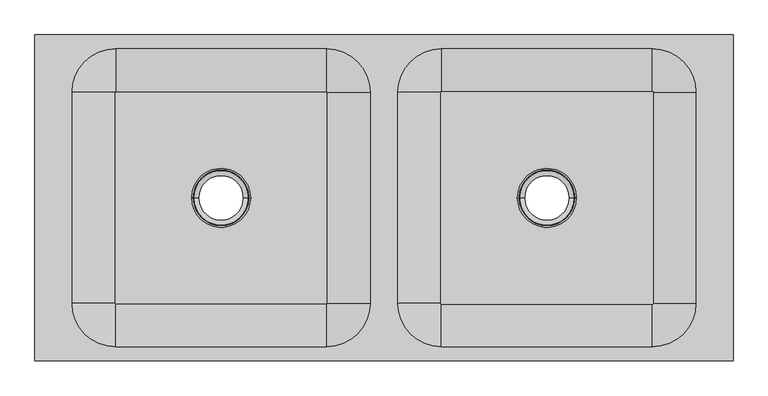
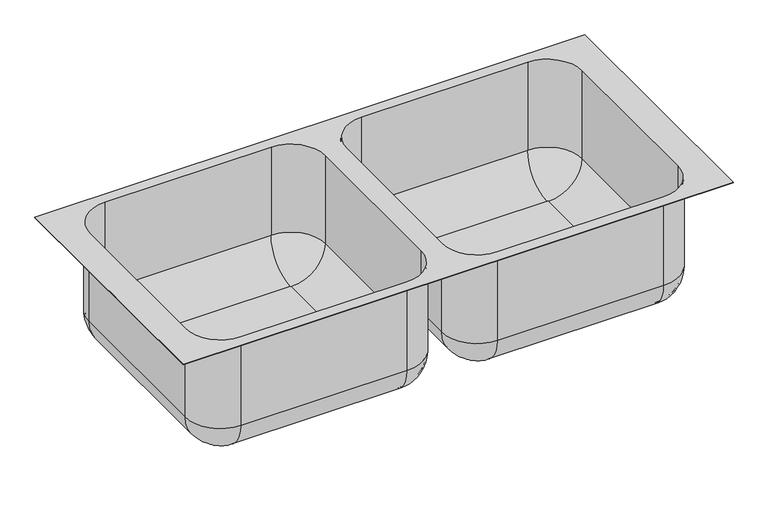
"""IFC4 building model written with IfcOpenShell, lengths in millimetres: flow terminal geometry, Sink_Double _Compartment_Floor_Mount-Elkay-RNSF82482_LR2 : RNSF82482 (Rigidbilt® Stainless Steel Floor Mount Double Compartment Scullery Sink )."""

from ifc_helpers import new_model, si_unit, point, frame, origin, place, context, project, spatial, polyline, circle_curve, ellipse_curve, trimmed, source, transform, mapped, element, save
from ifc_brep_helpers import plane_surface, cylinder_surface, revolved_surface, advanced_brep


def flow_terminal_fb18c262(model_context):
    return source(origin(), model_context, "Body", "AdvancedBrep", [
        advanced_brep(
        [(-638.175, -222.25, 866.775), (-549.275, -311.15, 866.775), (-549.275, -311.15, 865.505), (-549.275, -311.15, 625.6040089), (-638.175, -222.25, 625.6040089), (-638.175, -222.25, 865.505), (-638.175, 209.55, 625.6040089), (-638.175, 209.55, 865.505), (-638.175, 209.55, 866.775), (-549.275, 298.45, 866.775), (-549.275, 298.45, 625.6040089), (-549.275, 298.45, 865.505), (-117.475, 298.45, 625.6040089), (-117.475, 298.45, 865.505), (-117.475, 298.45, 866.775), (-28.575, 209.55, 866.775), (-28.575, 209.55, 625.6040089), (-28.575, 209.55, 865.505), (-28.575, -222.25, 625.6040089), (-28.575, -222.25, 865.505), (-28.575, -222.25, 866.775), (-117.475, -311.15, 866.775), (-117.475, -311.15, 625.6040089), (-117.475, -311.15, 865.505), (714.375, 327.025, 866.775), (-714.375, 327.025, 866.775), (-714.375, -339.725, 866.775), (714.375, -339.725, 866.775), (117.475, -311.15, 866.775), (28.575, -222.25, 866.775), (28.575, 209.55, 866.775), (117.475, 298.45, 866.775), (549.275, 298.45, 866.775), (638.175, 209.55, 866.775), (638.175, -222.25, 866.775), (549.275, -311.15, 866.775), (-25.4, 209.55, 625.6080984), (-117.475, 301.625, 625.6080984), (-117.475, 301.625, 865.505), (-25.4, 209.55, 865.505), (-115.8875, 209.55, 535.1205984), (-117.475, 211.1375, 535.1205984), (-117.475, 211.1375, 538.2915089), (-115.8875, 209.55, 538.2915089), (-25.4, -222.25, 625.6080984), (-25.4, -222.25, 865.505), (-115.8875, -222.25, 535.1205984), (-115.8875, -222.25, 538.2915089), (-117.475, -314.325, 625.6080984), (-117.475, -314.325, 865.505), (-117.475, -223.8375, 535.1205984), (-117.475, -223.8375, 538.2915089), (-549.275, -314.325, 625.6080984), (-549.275, -314.325, 865.505), (-549.275, -223.8375, 535.1205984), (-549.275, -223.8375, 538.2915089), (-641.35, -222.25, 625.6080984), (-641.35, -222.25, 865.505), (-550.8625, -222.25, 535.1205984), (-550.8625, -222.25, 538.2915089), (-641.35, 209.55, 625.6080984), (-641.35, 209.55, 865.505), (-550.8625, 209.55, 535.1205984), (-550.8625, 209.55, 538.2915089), (-549.275, 301.625, 625.6080984), (-549.275, 301.625, 865.505), (-549.275, 211.1375, 535.1205984), (-549.275, 211.1375, 538.2915089), (-393.7, -6.35, 538.2915089), (-273.05, -6.35, 538.2915089), (550.8625, 209.55, 538.2915089), (549.275, 211.1375, 538.2915089), (117.475, 211.1375, 538.2915089), (115.8875, 209.55, 538.2915089), (115.8875, -222.25, 538.2915089), (117.475, -223.8375, 538.2915089), (549.275, -223.8375, 538.2915089), (550.8625, -222.25, 538.2915089), (273.05, -6.35, 538.2915089), (393.7, -6.35, 538.2915089), (-393.7, -6.35, 535.1205984), (-273.05, -6.35, 535.1205984), (549.275, 211.1375, 535.1205984), (550.8625, 209.55, 535.1205984), (550.8625, -222.25, 535.1205984), (549.275, -223.8375, 535.1205984), (117.475, -223.8375, 535.1205984), (115.8875, -222.25, 535.1205984), (115.8875, 209.55, 535.1205984), (117.475, 211.1375, 535.1205984), (273.05, -6.35, 535.1205984), (393.7, -6.35, 535.1205984), (117.475, -311.15, 865.505), (117.475, -311.15, 625.6040089), (28.575, -222.25, 625.6040089), (28.575, -222.25, 865.505), (28.575, 209.55, 625.6040089), (28.575, 209.55, 865.505), (117.475, 298.45, 625.6040089), (117.475, 298.45, 865.505), (549.275, 298.45, 625.6040089), (549.275, 298.45, 865.505), (638.175, 209.55, 625.6040089), (638.175, 209.55, 865.505), (638.175, -222.25, 625.6040089), (638.175, -222.25, 865.505), (549.275, -311.15, 625.6040089), (549.275, -311.15, 865.505), (641.35, 209.55, 625.6080984), (549.275, 301.625, 625.6080984), (549.275, 301.625, 865.505), (641.35, 209.55, 865.505), (641.35, -222.25, 625.6080984), (641.35, -222.25, 865.505), (549.275, -314.325, 625.6080984), (549.275, -314.325, 865.505), (117.475, -314.325, 625.6080984), (117.475, -314.325, 865.505), (25.4, -222.25, 625.6080984), (25.4, -222.25, 865.505), (25.4, 209.55, 625.6080984), (25.4, 209.55, 865.505), (117.475, 301.625, 625.6080984), (117.475, 301.625, 865.505), (714.375, 327.025, 865.505), (714.375, -339.725, 865.505), (-714.375, -339.725, 865.505), (-714.375, 327.025, 865.505)],
        [
            (0, 1, circle_curve(frame((-549.275, -222.25, 866.775), z_axis=(0.0, 0.0, 1.0), x_axis=(0.0, -1.0, 0.0)), 88.9)),
            (1, 2),
            (2, 3),
            (3, 4, circle_curve(frame((-549.275, -222.25, 625.6040089), z_axis=(0.0, 0.0, -1.0), x_axis=(0.0, -1.0, 0.0)), 88.9)),
            (4, 5),
            (5, 0),
            (4, 6),
            (6, 7),
            (7, 8),
            (8, 0),
            (9, 8, circle_curve(frame((-549.275, 209.55, 866.775), z_axis=(0.0, 0.0, 1.0), x_axis=(-1.0, 0.0, 0.0)), 88.9)),
            (6, 10, circle_curve(frame((-549.275, 209.55, 625.6040089), z_axis=(0.0, 0.0, -1.0), x_axis=(-1.0, 0.0, 0.0)), 88.9)),
            (10, 11),
            (11, 9),
            (10, 12),
            (12, 13),
            (13, 14),
            (14, 9),
            (15, 14, circle_curve(frame((-117.475, 209.55, 866.775), z_axis=(0.0, 0.0, 1.0), x_axis=(0.0, 1.0, 0.0)), 88.9)),
            (12, 16, circle_curve(frame((-117.475, 209.55, 625.6040089), z_axis=(0.0, 0.0, -1.0), x_axis=(0.0, 1.0, 0.0)), 88.9)),
            (16, 17),
            (17, 15),
            (16, 18),
            (18, 19),
            (19, 20),
            (20, 15),
            (21, 20, circle_curve(frame((-117.475, -222.25, 866.775), z_axis=(0.0, 0.0, 1.0), x_axis=(1.0, 0.0, 0.0)), 88.9)),
            (18, 22, circle_curve(frame((-117.475, -222.25, 625.6040089), z_axis=(0.0, 0.0, -1.0), x_axis=(1.0, 0.0, 0.0)), 88.9)),
            (22, 23),
            (23, 21),
            (22, 3),
            (1, 21),
            (24, 25),
            (25, 26),
            (26, 27),
            (27, 24),
            (28, 29, circle_curve(frame((117.475, -222.25, 866.775), z_axis=(0.0, 0.0, -1.0), x_axis=(0.0, -1.0, 0.0)), 88.9)),
            (29, 30),
            (30, 31, circle_curve(frame((117.475, 209.55, 866.775), z_axis=(0.0, 0.0, -1.0), x_axis=(-1.0, 0.0, 0.0)), 88.9)),
            (31, 32),
            (32, 33, circle_curve(frame((549.275, 209.55, 866.775), z_axis=(0.0, 0.0, -1.0), x_axis=(0.0, 1.0, 0.0)), 88.9)),
            (33, 34),
            (34, 35, circle_curve(frame((549.275, -222.25, 866.775), z_axis=(0.0, 0.0, -1.0), x_axis=(1.0, 0.0, 0.0)), 88.9)),
            (35, 28),
            (36, 37, circle_curve(frame((-117.475, 209.55, 625.6080984), z_axis=(0.0, 0.0, 1.0), x_axis=(0.0, 1.0, 0.0)), 92.075)),
            (37, 38),
            (38, 39, circle_curve(frame((-117.475, 209.55, 865.505), z_axis=(0.0, 0.0, -1.0), x_axis=(0.0, 1.0, 0.0)), 92.075)),
            (39, 36),
            (36, 40, circle_curve(frame((-115.8875, 209.55, 625.6080984), z_axis=(0.0, 1.0, 0.0), x_axis=(1.0, 0.0, 0.0)), 90.4875)),
            (40, 41, circle_curve(frame((-117.475, 209.55, 535.1205984), z_axis=(0.0, 0.0, 1.0), x_axis=(0.0, 1.0, 0.0)), 1.5875)),
            (41, 37, circle_curve(frame((-117.475, 211.1375, 625.6080984), z_axis=(1.0, 0.0, 0.0), x_axis=(0.0, 1.0, 0.0)), 90.4875)),
            (12, 42, circle_curve(frame((-117.475, 211.1375, 625.6040089), z_axis=(-1.0, 0.0, 0.0), x_axis=(0.0, 1.0, 0.0)), 87.3125)),
            (42, 43, circle_curve(frame((-117.475, 209.55, 538.2915089), z_axis=(0.0, 0.0, -1.0), x_axis=(0.0, 1.0, 0.0)), 1.5875)),
            (43, 16, circle_curve(frame((-115.8875, 209.55, 625.6040089), z_axis=(0.0, -1.0, 0.0), x_axis=(1.0, 0.0, 0.0)), 87.3125)),
            (44, 36),
            (39, 45),
            (45, 44),
            (44, 46, circle_curve(frame((-115.8875, -222.25, 625.6080984), z_axis=(0.0, 1.0, 0.0), x_axis=(1.0, 0.0, 0.0)), 90.4875)),
            (46, 40),
            (43, 47),
            (47, 18, circle_curve(frame((-115.8875, -222.25, 625.6040089), z_axis=(0.0, -1.0, 0.0), x_axis=(1.0, 0.0, 0.0)), 87.3125)),
            (48, 44, circle_curve(frame((-117.475, -222.25, 625.6080984), z_axis=(0.0, 0.0, 1.0), x_axis=(1.0, 0.0, 0.0)), 92.075)),
            (45, 49, circle_curve(frame((-117.475, -222.25, 865.505), z_axis=(0.0, 0.0, -1.0), x_axis=(1.0, 0.0, 0.0)), 92.075)),
            (49, 48),
            (48, 50, circle_curve(frame((-117.475, -223.8375, 625.6080984), z_axis=(1.0, 0.0, 0.0), x_axis=(0.0, -1.0, 0.0)), 90.4875)),
            (50, 46, circle_curve(frame((-117.475, -222.25, 535.1205984), z_axis=(0.0, 0.0, 1.0), x_axis=(1.0, 0.0, 0.0)), 1.5875)),
            (47, 51, circle_curve(frame((-117.475, -222.25, 538.2915089), z_axis=(0.0, 0.0, -1.0), x_axis=(1.0, 0.0, 0.0)), 1.5875)),
            (51, 22, circle_curve(frame((-117.475, -223.8375, 625.6040089), z_axis=(-1.0, 0.0, 0.0), x_axis=(0.0, -1.0, 0.0)), 87.3125)),
            (52, 48),
            (49, 53),
            (53, 52),
            (52, 54, circle_curve(frame((-549.275, -223.8375, 625.6080984), z_axis=(1.0, 0.0, 0.0), x_axis=(0.0, -1.0, 0.0)), 90.4875)),
            (54, 50),
            (51, 55),
            (55, 3, circle_curve(frame((-549.275, -223.8375, 625.6040089), z_axis=(-1.0, 0.0, 0.0), x_axis=(0.0, -1.0, 0.0)), 87.3125)),
            (56, 52, circle_curve(frame((-549.275, -222.25, 625.6080984), z_axis=(0.0, 0.0, 1.0), x_axis=(0.0, -1.0, 0.0)), 92.075)),
            (53, 57, circle_curve(frame((-549.275, -222.25, 865.505), z_axis=(0.0, 0.0, -1.0), x_axis=(0.0, -1.0, 0.0)), 92.075)),
            (57, 56),
            (56, 58, circle_curve(frame((-550.8625, -222.25, 625.6080984), z_axis=(0.0, -1.0, 0.0), x_axis=(-1.0, 0.0, 0.0)), 90.4875)),
            (58, 54, circle_curve(frame((-549.275, -222.25, 535.1205984), z_axis=(0.0, 0.0, 1.0), x_axis=(0.0, -1.0, 0.0)), 1.5875)),
            (55, 59, circle_curve(frame((-549.275, -222.25, 538.2915089), z_axis=(0.0, 0.0, -1.0), x_axis=(0.0, -1.0, 0.0)), 1.5875)),
            (59, 4, circle_curve(frame((-550.8625, -222.25, 625.6040089), z_axis=(0.0, 1.0, 0.0), x_axis=(-1.0, 0.0, 0.0)), 87.3125)),
            (60, 56),
            (57, 61),
            (61, 60),
            (60, 62, circle_curve(frame((-550.8625, 209.55, 625.6080984), z_axis=(0.0, -1.0, 0.0), x_axis=(-1.0, 0.0, 0.0)), 90.4875)),
            (62, 58),
            (59, 63),
            (63, 6, circle_curve(frame((-550.8625, 209.55, 625.6040089), z_axis=(0.0, 1.0, 0.0), x_axis=(-1.0, 0.0, 0.0)), 87.3125)),
            (64, 60, circle_curve(frame((-549.275, 209.55, 625.6080984), z_axis=(0.0, 0.0, 1.0), x_axis=(-1.0, 0.0, 0.0)), 92.075)),
            (61, 65, circle_curve(frame((-549.275, 209.55, 865.505), z_axis=(0.0, 0.0, -1.0), x_axis=(-1.0, 0.0, 0.0)), 92.075)),
            (65, 64),
            (64, 66, circle_curve(frame((-549.275, 211.1375, 625.6080984), z_axis=(-1.0, 0.0, 0.0), x_axis=(0.0, 1.0, 0.0)), 90.4875)),
            (66, 62, circle_curve(frame((-549.275, 209.55, 535.1205984), z_axis=(0.0, 0.0, 1.0), x_axis=(-1.0, 0.0, 0.0)), 1.5875)),
            (63, 67, circle_curve(frame((-549.275, 209.55, 538.2915089), z_axis=(0.0, 0.0, -1.0), x_axis=(-1.0, 0.0, 0.0)), 1.5875)),
            (67, 10, circle_curve(frame((-549.275, 211.1375, 625.6040089), z_axis=(1.0, 0.0, 0.0), x_axis=(0.0, 1.0, 0.0)), 87.3125)),
            (37, 64),
            (65, 38),
            (41, 66),
            (67, 42),
            (68, 69, circle_curve(frame((-333.375, -6.35, 538.2915089), z_axis=(0.0, 0.0, -1.0), x_axis=(1.0, 0.0, 0.0)), 60.325)),
            (69, 68, circle_curve(frame((-333.375, -6.35, 538.2915089), z_axis=(0.0, 0.0, -1.0), x_axis=(1.0, 0.0, 0.0)), 60.325)),
            (70, 71, circle_curve(frame((549.275, 209.55, 538.2915089), z_axis=(0.0, 0.0, 1.0), x_axis=(0.0, 1.0, 0.0)), 1.5875)),
            (71, 72),
            (72, 73, circle_curve(frame((117.475, 209.55, 538.2915089), z_axis=(0.0, 0.0, 1.0), x_axis=(-1.0, 0.0, 0.0)), 1.5875)),
            (73, 74),
            (74, 75, circle_curve(frame((117.475, -222.25, 538.2915089), z_axis=(0.0, 0.0, 1.0), x_axis=(0.0, -1.0, 0.0)), 1.5875)),
            (75, 76),
            (76, 77, circle_curve(frame((549.275, -222.25, 538.2915089), z_axis=(0.0, 0.0, 1.0), x_axis=(1.0, 0.0, 0.0)), 1.5875)),
            (77, 70),
            (78, 79, circle_curve(frame((333.375, -6.35, 538.2915089), z_axis=(0.0, 0.0, -1.0), x_axis=(1.0, 0.0, 0.0)), 60.325)),
            (79, 78, circle_curve(frame((333.375, -6.35, 538.2915089), z_axis=(0.0, 0.0, -1.0), x_axis=(1.0, 0.0, 0.0)), 60.325)),
            (80, 81, circle_curve(frame((-333.375, -6.35, 535.1205984), z_axis=(0.0, 0.0, 1.0), x_axis=(1.0, 0.0, 0.0)), 60.325)),
            (81, 80, circle_curve(frame((-333.375, -6.35, 535.1205984), z_axis=(0.0, 0.0, 1.0), x_axis=(1.0, 0.0, 0.0)), 60.325)),
            (82, 83, circle_curve(frame((549.275, 209.55, 535.1205984), z_axis=(0.0, 0.0, -1.0), x_axis=(0.0, 1.0, 0.0)), 1.5875)),
            (83, 84),
            (84, 85, circle_curve(frame((549.275, -222.25, 535.1205984), z_axis=(0.0, 0.0, -1.0), x_axis=(1.0, 0.0, 0.0)), 1.5875)),
            (85, 86),
            (86, 87, circle_curve(frame((117.475, -222.25, 535.1205984), z_axis=(0.0, 0.0, -1.0), x_axis=(0.0, -1.0, 0.0)), 1.5875)),
            (87, 88),
            (88, 89, circle_curve(frame((117.475, 209.55, 535.1205984), z_axis=(0.0, 0.0, -1.0), x_axis=(-1.0, 0.0, 0.0)), 1.5875)),
            (89, 82),
            (90, 91, circle_curve(frame((333.375, -6.35, 535.1205984), z_axis=(0.0, 0.0, 1.0), x_axis=(1.0, 0.0, 0.0)), 60.325)),
            (91, 90, circle_curve(frame((333.375, -6.35, 535.1205984), z_axis=(0.0, 0.0, 1.0), x_axis=(1.0, 0.0, 0.0)), 60.325)),
            (68, 80),
            (81, 69),
            (78, 90),
            (91, 79),
            (28, 92),
            (92, 93),
            (93, 94, circle_curve(frame((117.475, -222.25, 625.6040089), z_axis=(0.0, 0.0, -1.0), x_axis=(0.0, -1.0, 0.0)), 88.9)),
            (94, 95),
            (95, 29),
            (94, 96),
            (96, 97),
            (97, 30),
            (96, 98, circle_curve(frame((117.475, 209.55, 625.6040089), z_axis=(0.0, 0.0, -1.0), x_axis=(-1.0, 0.0, 0.0)), 88.9)),
            (98, 99),
            (99, 31),
            (98, 100),
            (100, 101),
            (101, 32),
            (100, 102, circle_curve(frame((549.275, 209.55, 625.6040089), z_axis=(0.0, 0.0, -1.0), x_axis=(0.0, 1.0, 0.0)), 88.9)),
            (102, 103),
            (103, 33),
            (102, 104),
            (104, 105),
            (105, 34),
            (104, 106, circle_curve(frame((549.275, -222.25, 625.6040089), z_axis=(0.0, 0.0, -1.0), x_axis=(1.0, 0.0, 0.0)), 88.9)),
            (106, 107),
            (107, 35),
            (106, 93),
            (108, 109, circle_curve(frame((549.275, 209.55, 625.6080984), z_axis=(0.0, 0.0, 1.0), x_axis=(0.0, 1.0, 0.0)), 92.075)),
            (109, 110),
            (110, 111, circle_curve(frame((549.275, 209.55, 865.505), z_axis=(0.0, 0.0, -1.0), x_axis=(0.0, 1.0, 0.0)), 92.075)),
            (111, 108),
            (108, 83, circle_curve(frame((550.8625, 209.55, 625.6080984), z_axis=(0.0, 1.0, 0.0), x_axis=(1.0, 0.0, 0.0)), 90.4875)),
            (82, 109, circle_curve(frame((549.275, 211.1375, 625.6080984), z_axis=(1.0, 0.0, 0.0), x_axis=(0.0, 1.0, 0.0)), 90.4875)),
            (100, 71, circle_curve(frame((549.275, 211.1375, 625.6040089), z_axis=(-1.0, 0.0, 0.0), x_axis=(0.0, 1.0, 0.0)), 87.3125)),
            (70, 102, circle_curve(frame((550.8625, 209.55, 625.6040089), z_axis=(0.0, -1.0, 0.0), x_axis=(1.0, 0.0, 0.0)), 87.3125)),
            (112, 108),
            (111, 113),
            (113, 112),
            (112, 84, circle_curve(frame((550.8625, -222.25, 625.6080984), z_axis=(0.0, 1.0, 0.0), x_axis=(1.0, 0.0, 0.0)), 90.4875)),
            (77, 104, circle_curve(frame((550.8625, -222.25, 625.6040089), z_axis=(0.0, -1.0, 0.0), x_axis=(1.0, 0.0, 0.0)), 87.3125)),
            (114, 112, circle_curve(frame((549.275, -222.25, 625.6080984), z_axis=(0.0, 0.0, 1.0), x_axis=(1.0, 0.0, 0.0)), 92.075)),
            (113, 115, circle_curve(frame((549.275, -222.25, 865.505), z_axis=(0.0, 0.0, -1.0), x_axis=(1.0, 0.0, 0.0)), 92.075)),
            (115, 114),
            (114, 85, circle_curve(frame((549.275, -223.8375, 625.6080984), z_axis=(1.0, 0.0, 0.0), x_axis=(0.0, -1.0, 0.0)), 90.4875)),
            (76, 106, circle_curve(frame((549.275, -223.8375, 625.6040089), z_axis=(-1.0, 0.0, 0.0), x_axis=(0.0, -1.0, 0.0)), 87.3125)),
            (116, 114),
            (115, 117),
            (117, 116),
            (116, 86, circle_curve(frame((117.475, -223.8375, 625.6080984), z_axis=(1.0, 0.0, 0.0), x_axis=(0.0, -1.0, 0.0)), 90.4875)),
            (75, 93, circle_curve(frame((117.475, -223.8375, 625.6040089), z_axis=(-1.0, 0.0, 0.0), x_axis=(0.0, -1.0, 0.0)), 87.3125)),
            (118, 116, circle_curve(frame((117.475, -222.25, 625.6080984), z_axis=(0.0, 0.0, 1.0), x_axis=(0.0, -1.0, 0.0)), 92.075)),
            (117, 119, circle_curve(frame((117.475, -222.25, 865.505), z_axis=(0.0, 0.0, -1.0), x_axis=(0.0, -1.0, 0.0)), 92.075)),
            (119, 118),
            (118, 87, circle_curve(frame((115.8875, -222.25, 625.6080984), z_axis=(0.0, -1.0, 0.0), x_axis=(-1.0, 0.0, 0.0)), 90.4875)),
            (74, 94, circle_curve(frame((115.8875, -222.25, 625.6040089), z_axis=(0.0, 1.0, 0.0), x_axis=(-1.0, 0.0, 0.0)), 87.3125)),
            (120, 118),
            (119, 121),
            (121, 120),
            (120, 88, circle_curve(frame((115.8875, 209.55, 625.6080984), z_axis=(0.0, -1.0, 0.0), x_axis=(-1.0, 0.0, 0.0)), 90.4875)),
            (73, 96, circle_curve(frame((115.8875, 209.55, 625.6040089), z_axis=(0.0, 1.0, 0.0), x_axis=(-1.0, 0.0, 0.0)), 87.3125)),
            (122, 120, circle_curve(frame((117.475, 209.55, 625.6080984), z_axis=(0.0, 0.0, 1.0), x_axis=(-1.0, 0.0, 0.0)), 92.075)),
            (121, 123, circle_curve(frame((117.475, 209.55, 865.505), z_axis=(0.0, 0.0, -1.0), x_axis=(-1.0, 0.0, 0.0)), 92.075)),
            (123, 122),
            (122, 89, circle_curve(frame((117.475, 211.1375, 625.6080984), z_axis=(-1.0, 0.0, 0.0), x_axis=(0.0, 1.0, 0.0)), 90.4875)),
            (72, 98, circle_curve(frame((117.475, 211.1375, 625.6040089), z_axis=(1.0, 0.0, 0.0), x_axis=(0.0, 1.0, 0.0)), 87.3125)),
            (109, 122),
            (123, 110),
            (124, 125),
            (125, 126),
            (126, 127),
            (127, 124),
            (24, 124),
            (127, 25),
            (126, 26),
            (125, 27),
        ],
        [
            revolved_surface(polyline([(-549.275, -311.15, 625.6040089), (-549.275, -311.15, 866.775)]), (-549.275, -222.25, 551.8885671), (0.0, 0.0, -1.0)),
            plane_surface(frame((-638.175, -222.25, 625.6040089), z_axis=(1.0, 0.0, 0.0), x_axis=(0.0, 1.0, 0.0))),
            revolved_surface(polyline([(-638.175, 209.55, 625.6040089), (-638.175, 209.55, 866.775)]), (-549.275, 209.55, 551.8885671), (0.0, 0.0, -1.0)),
            plane_surface(frame((-549.275, 298.45, 625.6040089), z_axis=(0.0, -1.0, 0.0), x_axis=(1.0, 0.0, 0.0))),
            revolved_surface(polyline([(-117.475, 298.45000000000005, 625.6040089), (-117.475, 298.45000000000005, 866.775)]), (-117.475, 209.55, 551.8885671), (0.0, 0.0, -1.0)),
            plane_surface(frame((-28.575, 209.55, 625.6040089), z_axis=(-1.0, 0.0, 0.0), x_axis=(0.0, -1.0, 0.0))),
            revolved_surface(polyline([(-28.57499999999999, -222.25, 625.6040089), (-28.57499999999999, -222.25, 866.775)]), (-117.475, -222.25, 551.8885671), (0.0, 0.0, -1.0)),
            plane_surface(frame((-117.475, -311.15, 625.6040089), z_axis=(0.0, 1.0, 0.0), x_axis=(-1.0, 0.0, 0.0))),
            plane_surface(frame((-117.475, -311.15, 866.775), z_axis=(0.0, 0.0, 1.0), x_axis=(-1.0, 0.0, 0.0))),
            cylinder_surface(frame((-117.475, 209.55, 551.8885671), z_axis=(0.0, 0.0, -1.0), x_axis=(0.0, 1.0, 0.0)), 92.075),
            revolved_surface(trimmed(ellipse_curve(frame((-117.475, 211.1375, 625.6080984), z_axis=(-1.0, 0.0, 0.0), x_axis=(0.0, 1.0, 0.0)), 90.4875, 90.4875), [point((-117.475, 301.625, 625.6080984))], [point((-117.475, 211.1375, 535.1205984))], True, "CARTESIAN"), (-117.475, 209.55, 551.8885671), (0.0, 0.0, -1.0)),
            revolved_surface(trimmed(ellipse_curve(frame((-117.475, 211.1375, 625.6040089), z_axis=(1.0, 0.0, 0.0), x_axis=(0.0, 1.0, 0.0)), 87.3125, 87.3125), [point((-117.475, 211.1375, 538.2915089))], [point((-117.475, 298.45, 625.6040089))], True, "CARTESIAN"), (-117.475, 209.55, 551.8885671), (0.0, 0.0, -1.0)),
            plane_surface(frame((-25.4, 209.55, 866.775), z_axis=(1.0, 0.0, 0.0), x_axis=(0.0, -1.0, 0.0))),
            cylinder_surface(frame((-115.8875, 209.55, 625.6080984), z_axis=(0.0, 1.0, 0.0), x_axis=(1.0, 0.0, 0.0)), 90.4875),
            revolved_surface(polyline([(-28.575000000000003, -222.25, 625.6040089), (-28.575000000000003, 209.55, 625.6040089)]), (-115.8875, 209.55, 625.6040089), (0.0, -1.0, 0.0)),
            cylinder_surface(frame((-117.475, -222.25, 551.8885671), z_axis=(0.0, 0.0, -1.0), x_axis=(1.0, 0.0, 0.0)), 92.075),
            revolved_surface(trimmed(ellipse_curve(frame((-115.8875, -222.25, 625.6080984), z_axis=(0.0, 1.0, 0.0), x_axis=(1.0, 0.0, 0.0)), 90.4875, 90.4875), [point((-25.4, -222.25, 625.6080984))], [point((-115.8875, -222.25, 535.1205984))], True, "CARTESIAN"), (-117.475, -222.25, 551.8885671), (0.0, 0.0, -1.0)),
            revolved_surface(trimmed(ellipse_curve(frame((-115.8875, -222.25, 625.6040089), z_axis=(0.0, -1.0, 0.0), x_axis=(1.0, 0.0, 0.0)), 87.3125, 87.3125), [point((-115.8875, -222.25, 538.2915089))], [point((-28.575, -222.25, 625.6040089))], True, "CARTESIAN"), (-117.475, -222.25, 551.8885671), (0.0, 0.0, -1.0)),
            plane_surface(frame((-117.475, -314.325, 866.775), z_axis=(0.0, -1.0, 0.0), x_axis=(-1.0, 0.0, 0.0))),
            cylinder_surface(frame((-117.475, -223.8375, 625.6080984), z_axis=(1.0, 0.0, 0.0), x_axis=(0.0, -1.0, 0.0)), 90.4875),
            revolved_surface(polyline([(-549.275, -311.15, 625.6040089), (-117.475, -311.15, 625.6040089)]), (-117.475, -223.8375, 625.6040089), (-1.0, 0.0, 0.0)),
            cylinder_surface(frame((-549.275, -222.25, 551.8885671), z_axis=(0.0, 0.0, -1.0), x_axis=(0.0, -1.0, 0.0)), 92.075),
            revolved_surface(trimmed(ellipse_curve(frame((-549.275, -223.8375, 625.6080984), z_axis=(1.0, 0.0, 0.0), x_axis=(0.0, -1.0, 0.0)), 90.4875, 90.4875), [point((-549.275, -314.325, 625.6080984))], [point((-549.275, -223.8375, 535.1205984))], True, "CARTESIAN"), (-549.275, -222.25, 551.8885671), (0.0, 0.0, -1.0)),
            revolved_surface(trimmed(ellipse_curve(frame((-549.275, -223.8375, 625.6040089), z_axis=(-1.0, 0.0, 0.0), x_axis=(0.0, -1.0, 0.0)), 87.3125, 87.3125), [point((-549.275, -223.8375, 538.2915089))], [point((-549.275, -311.15, 625.6040089))], True, "CARTESIAN"), (-549.275, -222.25, 551.8885671), (0.0, 0.0, -1.0)),
            plane_surface(frame((-641.35, -222.25, 866.775), z_axis=(-1.0, 0.0, 0.0), x_axis=(0.0, 1.0, 0.0))),
            cylinder_surface(frame((-550.8625, -222.25, 625.6080984), z_axis=(0.0, -1.0, 0.0), x_axis=(-1.0, 0.0, 0.0)), 90.4875),
            revolved_surface(polyline([(-638.175, 209.55, 625.6040089), (-638.175, -222.25, 625.6040089)]), (-550.8625, -222.25, 625.6040089), (0.0, 1.0, 0.0)),
            cylinder_surface(frame((-549.275, 209.55, 551.8885671), z_axis=(0.0, 0.0, -1.0), x_axis=(-1.0, 0.0, 0.0)), 92.075),
            revolved_surface(trimmed(ellipse_curve(frame((-550.8625, 209.55, 625.6080984), z_axis=(0.0, -1.0, 0.0), x_axis=(-1.0, 0.0, 0.0)), 90.4875, 90.4875), [point((-641.35, 209.55, 625.6080984))], [point((-550.8625, 209.55, 535.1205984))], True, "CARTESIAN"), (-549.275, 209.55, 551.8885671), (0.0, 0.0, -1.0)),
            revolved_surface(trimmed(ellipse_curve(frame((-550.8625, 209.55, 625.6040089), z_axis=(0.0, 1.0, 0.0), x_axis=(-1.0, 0.0, 0.0)), 87.3125, 87.3125), [point((-550.8625, 209.55, 538.2915089))], [point((-638.175, 209.55, 625.6040089))], True, "CARTESIAN"), (-549.275, 209.55, 551.8885671), (0.0, 0.0, -1.0)),
            plane_surface(frame((-549.275, 301.625, 866.775), z_axis=(0.0, 1.0, 0.0), x_axis=(1.0, 0.0, 0.0))),
            cylinder_surface(frame((-549.275, 211.1375, 625.6080984), z_axis=(-1.0, 0.0, 0.0), x_axis=(0.0, 1.0, 0.0)), 90.4875),
            revolved_surface(polyline([(-117.47500000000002, 298.45, 625.6040089), (-549.275, 298.45, 625.6040089)]), (-549.275, 211.1375, 625.6040089), (1.0, 0.0, 0.0)),
            plane_surface(frame((-459.1773459, 211.1375, 538.2915089), z_axis=(0.0, 0.0, 1.0), x_axis=(-1.0, 0.0, 0.0))),
            plane_surface(frame((-459.1773459, 211.1375, 535.1205984), z_axis=(0.0, 0.0, -1.0), x_axis=(1.0, 0.0, 0.0))),
            revolved_surface(polyline([(-273.05, -6.35, 535.1205984), (-273.05, -6.35, 538.2915089)]), (-333.375, -6.35, 0.0), (0.0, 0.0, -1.0)),
            revolved_surface(polyline([(393.7, -6.35, 535.1205984), (393.7, -6.35, 538.2915089)]), (333.375, -6.35, 0.0), (0.0, 0.0, -1.0)),
            revolved_surface(polyline([(117.475, -311.15, 625.6040089), (117.475, -311.15, 866.775)]), (117.475, -222.25, 551.8885671), (0.0, 0.0, -1.0)),
            plane_surface(frame((28.575, -222.25, 625.6040089), z_axis=(1.0, 0.0, 0.0), x_axis=(0.0, 1.0, 0.0))),
            revolved_surface(polyline([(28.57499999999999, 209.55, 625.6040089), (28.57499999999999, 209.55, 866.775)]), (117.475, 209.55, 551.8885671), (0.0, 0.0, -1.0)),
            plane_surface(frame((117.475, 298.45, 625.6040089), z_axis=(0.0, -1.0, 0.0), x_axis=(1.0, 0.0, 0.0))),
            revolved_surface(polyline([(549.275, 298.45000000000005, 625.6040089), (549.275, 298.45000000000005, 866.775)]), (549.275, 209.55, 551.8885671), (0.0, 0.0, -1.0)),
            plane_surface(frame((638.175, 209.55, 625.6040089), z_axis=(-1.0, 0.0, 0.0), x_axis=(0.0, -1.0, 0.0))),
            revolved_surface(polyline([(638.175, -222.25, 625.6040089), (638.175, -222.25, 866.775)]), (549.275, -222.25, 551.8885671), (0.0, 0.0, -1.0)),
            plane_surface(frame((549.275, -311.15, 625.6040089), z_axis=(0.0, 1.0, 0.0), x_axis=(-1.0, 0.0, 0.0))),
            cylinder_surface(frame((549.275, 209.55, 551.8885671), z_axis=(0.0, 0.0, -1.0), x_axis=(0.0, 1.0, 0.0)), 92.075),
            revolved_surface(trimmed(ellipse_curve(frame((549.275, 211.1375, 625.6080984), z_axis=(-1.0, 0.0, 0.0), x_axis=(0.0, 1.0, 0.0)), 90.4875, 90.4875), [point((549.275, 301.625, 625.6080984))], [point((549.275, 211.1375, 535.1205984))], True, "CARTESIAN"), (549.275, 209.55, 551.8885671), (0.0, 0.0, -1.0)),
            revolved_surface(trimmed(ellipse_curve(frame((549.275, 211.1375, 625.6040089), z_axis=(1.0, 0.0, 0.0), x_axis=(0.0, 1.0, 0.0)), 87.3125, 87.3125), [point((549.275, 211.1375, 538.2915089))], [point((549.275, 298.45, 625.6040089))], True, "CARTESIAN"), (549.275, 209.55, 551.8885671), (0.0, 0.0, -1.0)),
            plane_surface(frame((641.35, 209.55, 866.775), z_axis=(1.0, 0.0, 0.0), x_axis=(0.0, -1.0, 0.0))),
            cylinder_surface(frame((550.8625, 209.55, 625.6080984), z_axis=(0.0, 1.0, 0.0), x_axis=(1.0, 0.0, 0.0)), 90.4875),
            revolved_surface(polyline([(638.175, -222.25, 625.6040089), (638.175, 209.55, 625.6040089)]), (550.8625, 209.55, 625.6040089), (0.0, -1.0, 0.0)),
            cylinder_surface(frame((549.275, -222.25, 551.8885671), z_axis=(0.0, 0.0, -1.0), x_axis=(1.0, 0.0, 0.0)), 92.075),
            revolved_surface(trimmed(ellipse_curve(frame((550.8625, -222.25, 625.6080984), z_axis=(0.0, 1.0, 0.0), x_axis=(1.0, 0.0, 0.0)), 90.4875, 90.4875), [point((641.35, -222.25, 625.6080984))], [point((550.8625, -222.25, 535.1205984))], True, "CARTESIAN"), (549.275, -222.25, 551.8885671), (0.0, 0.0, -1.0)),
            revolved_surface(trimmed(ellipse_curve(frame((550.8625, -222.25, 625.6040089), z_axis=(0.0, -1.0, 0.0), x_axis=(1.0, 0.0, 0.0)), 87.3125, 87.3125), [point((550.8625, -222.25, 538.2915089))], [point((638.175, -222.25, 625.6040089))], True, "CARTESIAN"), (549.275, -222.25, 551.8885671), (0.0, 0.0, -1.0)),
            plane_surface(frame((549.275, -314.325, 866.775), z_axis=(0.0, -1.0, 0.0), x_axis=(-1.0, 0.0, 0.0))),
            cylinder_surface(frame((549.275, -223.8375, 625.6080984), z_axis=(1.0, 0.0, 0.0), x_axis=(0.0, -1.0, 0.0)), 90.4875),
            revolved_surface(polyline([(117.47500000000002, -311.15, 625.6040089), (549.275, -311.15, 625.6040089)]), (549.275, -223.8375, 625.6040089), (-1.0, 0.0, 0.0)),
            cylinder_surface(frame((117.475, -222.25, 551.8885671), z_axis=(0.0, 0.0, -1.0), x_axis=(0.0, -1.0, 0.0)), 92.075),
            revolved_surface(trimmed(ellipse_curve(frame((117.475, -223.8375, 625.6080984), z_axis=(1.0, 0.0, 0.0), x_axis=(0.0, -1.0, 0.0)), 90.4875, 90.4875), [point((117.475, -314.325, 625.6080984))], [point((117.475, -223.8375, 535.1205984))], True, "CARTESIAN"), (117.475, -222.25, 551.8885671), (0.0, 0.0, -1.0)),
            revolved_surface(trimmed(ellipse_curve(frame((117.475, -223.8375, 625.6040089), z_axis=(-1.0, 0.0, 0.0), x_axis=(0.0, -1.0, 0.0)), 87.3125, 87.3125), [point((117.475, -223.8375, 538.2915089))], [point((117.475, -311.15, 625.6040089))], True, "CARTESIAN"), (117.475, -222.25, 551.8885671), (0.0, 0.0, -1.0)),
            plane_surface(frame((25.4, -222.25, 866.775), z_axis=(-1.0, 0.0, 0.0), x_axis=(0.0, 1.0, 0.0))),
            cylinder_surface(frame((115.8875, -222.25, 625.6080984), z_axis=(0.0, -1.0, 0.0), x_axis=(-1.0, 0.0, 0.0)), 90.4875),
            revolved_surface(polyline([(28.575000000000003, 209.55, 625.6040089), (28.575000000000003, -222.25, 625.6040089)]), (115.8875, -222.25, 625.6040089), (0.0, 1.0, 0.0)),
            cylinder_surface(frame((117.475, 209.55, 551.8885671), z_axis=(0.0, 0.0, -1.0), x_axis=(-1.0, 0.0, 0.0)), 92.075),
            revolved_surface(trimmed(ellipse_curve(frame((115.8875, 209.55, 625.6080984), z_axis=(0.0, -1.0, 0.0), x_axis=(-1.0, 0.0, 0.0)), 90.4875, 90.4875), [point((25.4, 209.55, 625.6080984))], [point((115.8875, 209.55, 535.1205984))], True, "CARTESIAN"), (117.475, 209.55, 551.8885671), (0.0, 0.0, -1.0)),
            revolved_surface(trimmed(ellipse_curve(frame((115.8875, 209.55, 625.6040089), z_axis=(0.0, 1.0, 0.0), x_axis=(-1.0, 0.0, 0.0)), 87.3125, 87.3125), [point((115.8875, 209.55, 538.2915089))], [point((28.575, 209.55, 625.6040089))], True, "CARTESIAN"), (117.475, 209.55, 551.8885671), (0.0, 0.0, -1.0)),
            plane_surface(frame((117.475, 301.625, 866.775), z_axis=(0.0, 1.0, 0.0), x_axis=(1.0, 0.0, 0.0))),
            cylinder_surface(frame((117.475, 211.1375, 625.6080984), z_axis=(-1.0, 0.0, 0.0), x_axis=(0.0, 1.0, 0.0)), 90.4875),
            revolved_surface(polyline([(549.275, 298.45, 625.6040089), (117.475, 298.45, 625.6040089)]), (117.475, 211.1375, 625.6040089), (1.0, 0.0, 0.0)),
            plane_surface(frame((-714.375, 327.025, 865.505), z_axis=(0.0, 0.0, -1.0), x_axis=(1.0, 0.0, 0.0))),
            plane_surface(frame((714.375, 327.025, 866.775), z_axis=(0.0, 1.0, 0.0), x_axis=(0.0, 0.0, -1.0))),
            plane_surface(frame((-714.375, 327.025, 866.775), z_axis=(-1.0, 0.0, 0.0), x_axis=(0.0, 0.0, -1.0))),
            plane_surface(frame((-714.375, -339.725, 866.775), z_axis=(0.0, -1.0, 0.0), x_axis=(0.0, 0.0, -1.0))),
            plane_surface(frame((714.375, -339.725, 866.775), z_axis=(1.0, 0.0, 0.0), x_axis=(0.0, 0.0, -1.0))),
        ],
        [
            (0, [[1, 2, 3, 4, 5, 6]]),
            (1, [[7, 8, 9, 10, -6, -5]]),
            (2, [[11, -9, -8, 12, 13, 14]]),
            (3, [[15, 16, 17, 18, -14, -13]]),
            (4, [[19, -17, -16, 20, 21, 22]]),
            (5, [[23, 24, 25, 26, -22, -21]]),
            (6, [[27, -25, -24, 28, 29, 30]]),
            (7, [[31, -3, -2, 32, -30, -29]]),
            (8, [[33, 34, 35, 36], [-1, -10, -11, -18, -19, -26, -27, -32], [37, 38, 39, 40, 41, 42, 43, 44]]),
            (9, [[45, 46, 47, 48]]),
            (10, [[-45, 49, 50, 51]]),
            (11, [[-20, 52, 53, 54]]),
            (12, [[55, -48, 56, 57]]),
            (13, [[-49, -55, 58, 59]]),
            (14, [[-23, -54, 60, 61]]),
            (15, [[62, -57, 63, 64]]),
            (16, [[-58, -62, 65, 66]]),
            (17, [[-28, -61, 67, 68]]),
            (18, [[69, -64, 70, 71]]),
            (19, [[-65, -69, 72, 73]]),
            (20, [[-31, -68, 74, 75]]),
            (21, [[76, -71, 77, 78]]),
            (22, [[-72, -76, 79, 80]]),
            (23, [[-4, -75, 81, 82]]),
            (24, [[83, -78, 84, 85]]),
            (25, [[-79, -83, 86, 87]]),
            (26, [[-7, -82, 88, 89]]),
            (27, [[90, -85, 91, 92]]),
            (28, [[-86, -90, 93, 94]]),
            (29, [[-12, -89, 95, 96]]),
            (30, [[97, -92, 98, -46]]),
            (31, [[-51, 99, -93, -97]]),
            (32, [[-15, -96, 100, -52]]),
            (33, [[-53, -100, -95, -88, -81, -74, -67, -60], [101, 102]]),
            (33, [[103, 104, 105, 106, 107, 108, 109, 110], [111, 112]]),
            (34, [[-50, -59, -66, -73, -80, -87, -94, -99], [113, 114]]),
            (34, [[115, 116, 117, 118, 119, 120, 121, 122], [123, 124]]),
            (35, [[-101, 125, -114, 126]]),
            (35, [[-102, -126, -113, -125]]),
            (36, [[-111, 127, -124, 128]]),
            (36, [[-112, -128, -123, -127]]),
            (37, [[-37, 129, 130, 131, 132, 133]]),
            (38, [[134, 135, 136, -38, -133, -132]]),
            (39, [[-39, -136, -135, 137, 138, 139]]),
            (40, [[140, 141, 142, -40, -139, -138]]),
            (41, [[-41, -142, -141, 143, 144, 145]]),
            (42, [[146, 147, 148, -42, -145, -144]]),
            (43, [[-43, -148, -147, 149, 150, 151]]),
            (44, [[152, -130, -129, -44, -151, -150]]),
            (45, [[153, 154, 155, 156]]),
            (46, [[-153, 157, -115, 158]]),
            (47, [[-143, 159, -103, 160]]),
            (48, [[161, -156, 162, 163]]),
            (49, [[-157, -161, 164, -116]]),
            (50, [[-146, -160, -110, 165]]),
            (51, [[166, -163, 167, 168]]),
            (52, [[-164, -166, 169, -117]]),
            (53, [[-149, -165, -109, 170]]),
            (54, [[171, -168, 172, 173]]),
            (55, [[-169, -171, 174, -118]]),
            (56, [[-152, -170, -108, 175]]),
            (57, [[176, -173, 177, 178]]),
            (58, [[-174, -176, 179, -119]]),
            (59, [[-131, -175, -107, 180]]),
            (60, [[181, -178, 182, 183]]),
            (61, [[-179, -181, 184, -120]]),
            (62, [[-134, -180, -106, 185]]),
            (63, [[186, -183, 187, 188]]),
            (64, [[-184, -186, 189, -121]]),
            (65, [[-137, -185, -105, 190]]),
            (66, [[191, -188, 192, -154]]),
            (67, [[-158, -122, -189, -191]]),
            (68, [[-140, -190, -104, -159]]),
            (69, [[193, 194, 195, 196], [-47, -98, -91, -84, -77, -70, -63, -56], [-155, -192, -187, -182, -177, -172, -167, -162]]),
            (70, [[-33, 197, -196, 198]]),
            (71, [[-34, -198, -195, 199]]),
            (72, [[-35, -199, -194, 200]]),
            (73, [[-36, -200, -193, -197]]),
        ],
    ),
        advanced_brep(
        [(-390.9631592, -6.35, 536.8872104), (-275.7868408, -6.35, 536.8872104), (-273.05, -6.35, 538.2915089), (-393.7, -6.35, 538.2915089), (-389.3975844, -6.35, 534.7128009), (-277.3524156, -6.35, 534.7128009), (-379.1839838, -6.35, 530.0168926), (-287.5660162, -6.35, 530.0168926), (-390.6133835, -6.35, 533.175087), (-276.1366165, -6.35, 533.175087), (-287.5660162, -6.35, 527.9201905), (-379.1839838, -6.35, 527.9201905), (-392.4930283, -6.35, 535.7857047), (-274.2569717, -6.35, 535.7857047), (-393.7, -6.35, 536.4063486), (-273.05, -6.35, 536.4063486)],
        [
            (0, 1, circle_curve(frame((-333.375, -6.35, 536.8872104), z_axis=(0.0, 0.0, -1.0), x_axis=(1.0, 0.0, 0.0)), 57.5881592)),
            (1, 2, circle_curve(frame((-273.0453155, -6.35, 534.9133122), z_axis=(0.0, 1.0, 0.0), x_axis=(-1.0, 0.0, 0.0)), 3.3782)),
            (2, 3, circle_curve(frame((-333.375, -6.35, 538.2915089), z_axis=(0.0, 0.0, 1.0), x_axis=(1.0, 0.0, 0.0)), 60.325)),
            (3, 0, circle_curve(frame((-393.7046845, -6.35, 534.9133122), z_axis=(0.0, 1.0, 0.0), x_axis=(1.0, 0.0, 0.0)), 3.3782)),
            (4, 5, circle_curve(frame((-333.375, -6.35, 534.7128009), z_axis=(0.0, 0.0, -1.0), x_axis=(1.0, 0.0, 0.0)), 56.0225844)),
            (5, 1),
            (0, 4),
            (6, 7, circle_curve(frame((-333.375, -6.35, 530.0168926), z_axis=(0.0, 0.0, -1.0), x_axis=(1.0, 0.0, 0.0)), 45.8089838)),
            (7, 5),
            (4, 6),
            (8, 9, circle_curve(frame((-333.375, -6.35, 533.175087), z_axis=(0.0, 0.0, -1.0), x_axis=(1.0, 0.0, 0.0)), 57.2383835)),
            (9, 10),
            (10, 11, circle_curve(frame((-333.375, -6.35, 527.9201905), z_axis=(0.0, 0.0, 1.0), x_axis=(1.0, 0.0, 0.0)), 45.8089838)),
            (11, 8),
            (12, 13, circle_curve(frame((-333.375, -6.35, 535.7857047), z_axis=(0.0, 0.0, -1.0), x_axis=(1.0, 0.0, 0.0)), 59.1180283)),
            (13, 9),
            (8, 12),
            (14, 15, circle_curve(frame((-333.375, -6.35, 536.4063486), z_axis=(0.0, 0.0, -1.0), x_axis=(1.0, 0.0, 0.0)), 60.325)),
            (15, 13, circle_curve(frame((-273.0453155, -6.35, 534.9133122), z_axis=(0.0, -1.0, 0.0), x_axis=(-1.0, 0.0, 0.0)), 1.4930438)),
            (12, 14, circle_curve(frame((-393.7046845, -6.35, 534.9133122), z_axis=(0.0, -1.0, 0.0), x_axis=(1.0, 0.0, 0.0)), 1.4930438)),
            (2, 15),
            (14, 3),
            (1, 0, circle_curve(frame((-333.375, -6.35, 536.8872104), z_axis=(0.0, 0.0, -1.0), x_axis=(-1.0, 0.0, 0.0)), 57.5881592)),
            (3, 2, circle_curve(frame((-333.375, -6.35, 538.2915089), z_axis=(0.0, 0.0, 1.0), x_axis=(-1.0, 0.0, 0.0)), 60.325)),
            (5, 4, circle_curve(frame((-333.375, -6.35, 534.7128009), z_axis=(0.0, 0.0, -1.0), x_axis=(-1.0, 0.0, 0.0)), 56.0225844)),
            (7, 6, circle_curve(frame((-333.375, -6.35, 530.0168926), z_axis=(0.0, 0.0, -1.0), x_axis=(-1.0, 0.0, 0.0)), 45.8089838)),
            (9, 8, circle_curve(frame((-333.375, -6.35, 533.175087), z_axis=(0.0, 0.0, -1.0), x_axis=(-1.0, 0.0, 0.0)), 57.2383835)),
            (11, 10, circle_curve(frame((-333.375, -6.35, 527.9201905), z_axis=(0.0, 0.0, 1.0), x_axis=(-1.0, 0.0, 0.0)), 45.8089838)),
            (13, 12, circle_curve(frame((-333.375, -6.35, 535.7857047), z_axis=(0.0, 0.0, -1.0), x_axis=(-1.0, 0.0, 0.0)), 59.1180283)),
            (15, 14, circle_curve(frame((-333.375, -6.35, 536.4063486), z_axis=(0.0, 0.0, -1.0), x_axis=(-1.0, 0.0, 0.0)), 60.325)),
            (10, 7),
            (6, 11),
        ],
        [
            revolved_surface(trimmed(ellipse_curve(frame((-273.0453155, -6.35, 534.9133122), z_axis=(0.0, -1.0, 0.0), x_axis=(-1.0, 0.0, 0.0)), 3.3782, 3.3782), [point((-273.05, -6.35, 538.2915089))], [point((-275.7868408, -6.35, 536.8872104))], True, "CARTESIAN"), (-333.375, -6.35, 538.2915089), (0.0, 0.0, 1.0)),
            revolved_surface(polyline([(-275.7868408, -6.35, 536.8872104), (-277.3524156, -6.35, 534.7128009)]), (-333.375, -6.35, 538.2915089), (0.0, 0.0, 1.0)),
            revolved_surface(polyline([(-277.3524156, -6.35, 534.7128009), (-287.5660162, -6.35, 530.0168926)]), (-333.375, -6.35, 538.2915089), (0.0, 0.0, 1.0)),
            revolved_surface(polyline([(-287.5660162, -6.35, 527.9201905), (-276.1366165, -6.35, 533.175087)]), (-333.375, -6.35, 538.2915089), (0.0, 0.0, 1.0)),
            revolved_surface(polyline([(-276.1366165, -6.35, 533.175087), (-274.2569717, -6.35, 535.7857047)]), (-333.375, -6.35, 538.2915089), (0.0, 0.0, 1.0)),
            revolved_surface(trimmed(ellipse_curve(frame((-273.0453155, -6.35, 534.9133122), z_axis=(0.0, 1.0, 0.0), x_axis=(-1.0, 0.0, 0.0)), 1.4930438, 1.4930438), [point((-274.2569717, -6.35, 535.7857047))], [point((-273.05, -6.35, 536.4063486))], True, "CARTESIAN"), (-333.375, -6.35, 538.2915089), (0.0, 0.0, 1.0)),
            cylinder_surface(frame((-333.375, -6.35, 538.2915089), z_axis=(0.0, 0.0, 1.0), x_axis=(1.0, 0.0, 0.0)), 60.325),
            revolved_surface(trimmed(ellipse_curve(frame((-393.7046845, -6.35, 534.9133122), z_axis=(0.0, 1.0, 0.0), x_axis=(1.0, 0.0, 0.0)), 3.3782, 3.3782), [point((-393.7, -6.35, 538.2915089))], [point((-390.9631592, -6.35, 536.8872104))], True, "CARTESIAN"), (-333.375, -6.35, 538.2915089), (0.0, 0.0, 1.0)),
            revolved_surface(polyline([(-390.9631592, -6.35, 536.8872104), (-389.3975844, -6.35, 534.7128009)]), (-333.375, -6.35, 538.2915089), (0.0, 0.0, 1.0)),
            revolved_surface(polyline([(-389.3975844, -6.35, 534.7128009), (-379.1839838, -6.35, 530.0168926)]), (-333.375, -6.35, 538.2915089), (0.0, 0.0, 1.0)),
            revolved_surface(polyline([(-379.1839838, -6.35, 527.9201905), (-390.6133835, -6.35, 533.175087)]), (-333.375, -6.35, 538.2915089), (0.0, 0.0, 1.0)),
            revolved_surface(polyline([(-390.6133835, -6.35, 533.175087), (-392.4930283, -6.35, 535.7857047)]), (-333.375, -6.35, 538.2915089), (0.0, 0.0, 1.0)),
            revolved_surface(trimmed(ellipse_curve(frame((-393.7046845, -6.35, 534.9133122), z_axis=(0.0, -1.0, 0.0), x_axis=(1.0, 0.0, 0.0)), 1.4930438, 1.4930438), [point((-392.4930283, -6.35, 535.7857047))], [point((-393.7, -6.35, 536.4063486))], True, "CARTESIAN"), (-333.375, -6.35, 538.2915089), (0.0, 0.0, 1.0)),
            cylinder_surface(frame((-333.375, -6.35, 538.2915089), z_axis=(0.0, 0.0, 1.0), x_axis=(-1.0, 0.0, 0.0)), 60.325),
            revolved_surface(polyline([(-287.5660162, -6.35, 530.0168926), (-287.5660162, -6.35, 527.9201905)]), (-333.375, -6.35, 538.2915089), (0.0, 0.0, 1.0)),
            revolved_surface(polyline([(-379.1839838, -6.35, 530.0168926), (-379.1839838, -6.35, 527.9201905)]), (-333.375, -6.35, 538.2915089), (0.0, 0.0, 1.0)),
        ],
        [
            (0, [[1, 2, 3, 4]]),
            (1, [[5, 6, -1, 7]]),
            (2, [[8, 9, -5, 10]]),
            (3, [[11, 12, 13, 14]]),
            (4, [[15, 16, -11, 17]]),
            (5, [[18, 19, -15, 20]]),
            (6, [[-3, 21, -18, 22]]),
            (7, [[23, -4, 24, -2]]),
            (8, [[25, -7, -23, -6]]),
            (9, [[26, -10, -25, -9]]),
            (10, [[27, -14, 28, -12]]),
            (11, [[29, -17, -27, -16]]),
            (12, [[30, -20, -29, -19]]),
            (13, [[-24, -22, -30, -21]]),
            (14, [[-13, 31, -8, 32]]),
            (15, [[-28, -32, -26, -31]]),
        ],
    ),
        advanced_brep(
        [(275.7868408, -6.35, 536.8872104), (390.9631592, -6.35, 536.8872104), (393.7, -6.35, 538.2915089), (273.05, -6.35, 538.2915089), (277.3524156, -6.35, 534.7128009), (389.3975844, -6.35, 534.7128009), (287.5660162, -6.35, 530.0168926), (379.1839838, -6.35, 530.0168926), (276.1366165, -6.35, 533.175087), (390.6133835, -6.35, 533.175087), (379.1839838, -6.35, 527.9201905), (287.5660162, -6.35, 527.9201905), (274.2569717, -6.35, 535.7857047), (392.4930283, -6.35, 535.7857047), (273.05, -6.35, 536.4063486), (393.7, -6.35, 536.4063486)],
        [
            (0, 1, circle_curve(frame((333.375, -6.35, 536.8872104), z_axis=(0.0, 0.0, -1.0), x_axis=(1.0, 0.0, 0.0)), 57.5881592)),
            (1, 2, circle_curve(frame((393.7046845, -6.35, 534.9133122), z_axis=(0.0, 1.0, 0.0), x_axis=(-1.0, 0.0, 0.0)), 3.3782)),
            (2, 3, circle_curve(frame((333.375, -6.35, 538.2915089), z_axis=(0.0, 0.0, 1.0), x_axis=(1.0, 0.0, 0.0)), 60.325)),
            (3, 0, circle_curve(frame((273.0453155, -6.35, 534.9133122), z_axis=(0.0, 1.0, 0.0), x_axis=(1.0, 0.0, 0.0)), 3.3782)),
            (4, 5, circle_curve(frame((333.375, -6.35, 534.7128009), z_axis=(0.0, 0.0, -1.0), x_axis=(1.0, 0.0, 0.0)), 56.0225844)),
            (5, 1),
            (0, 4),
            (6, 7, circle_curve(frame((333.375, -6.35, 530.0168926), z_axis=(0.0, 0.0, -1.0), x_axis=(1.0, 0.0, 0.0)), 45.8089838)),
            (7, 5),
            (4, 6),
            (8, 9, circle_curve(frame((333.375, -6.35, 533.175087), z_axis=(0.0, 0.0, -1.0), x_axis=(1.0, 0.0, 0.0)), 57.2383835)),
            (9, 10),
            (10, 11, circle_curve(frame((333.375, -6.35, 527.9201905), z_axis=(0.0, 0.0, 1.0), x_axis=(1.0, 0.0, 0.0)), 45.8089838)),
            (11, 8),
            (12, 13, circle_curve(frame((333.375, -6.35, 535.7857047), z_axis=(0.0, 0.0, -1.0), x_axis=(1.0, 0.0, 0.0)), 59.1180283)),
            (13, 9),
            (8, 12),
            (14, 15, circle_curve(frame((333.375, -6.35, 536.4063486), z_axis=(0.0, 0.0, -1.0), x_axis=(1.0, 0.0, 0.0)), 60.325)),
            (15, 13, circle_curve(frame((393.7046845, -6.35, 534.9133122), z_axis=(0.0, -1.0, 0.0), x_axis=(-1.0, 0.0, 0.0)), 1.4930438)),
            (12, 14, circle_curve(frame((273.0453155, -6.35, 534.9133122), z_axis=(0.0, -1.0, 0.0), x_axis=(1.0, 0.0, 0.0)), 1.4930438)),
            (2, 15),
            (14, 3),
            (1, 0, circle_curve(frame((333.375, -6.35, 536.8872104), z_axis=(0.0, 0.0, -1.0), x_axis=(-1.0, 0.0, 0.0)), 57.5881592)),
            (3, 2, circle_curve(frame((333.375, -6.35, 538.2915089), z_axis=(0.0, 0.0, 1.0), x_axis=(-1.0, 0.0, 0.0)), 60.325)),
            (5, 4, circle_curve(frame((333.375, -6.35, 534.7128009), z_axis=(0.0, 0.0, -1.0), x_axis=(-1.0, 0.0, 0.0)), 56.0225844)),
            (7, 6, circle_curve(frame((333.375, -6.35, 530.0168926), z_axis=(0.0, 0.0, -1.0), x_axis=(-1.0, 0.0, 0.0)), 45.8089838)),
            (9, 8, circle_curve(frame((333.375, -6.35, 533.175087), z_axis=(0.0, 0.0, -1.0), x_axis=(-1.0, 0.0, 0.0)), 57.2383835)),
            (11, 10, circle_curve(frame((333.375, -6.35, 527.9201905), z_axis=(0.0, 0.0, 1.0), x_axis=(-1.0, 0.0, 0.0)), 45.8089838)),
            (13, 12, circle_curve(frame((333.375, -6.35, 535.7857047), z_axis=(0.0, 0.0, -1.0), x_axis=(-1.0, 0.0, 0.0)), 59.1180283)),
            (15, 14, circle_curve(frame((333.375, -6.35, 536.4063486), z_axis=(0.0, 0.0, -1.0), x_axis=(-1.0, 0.0, 0.0)), 60.325)),
            (10, 7),
            (6, 11),
        ],
        [
            revolved_surface(trimmed(ellipse_curve(frame((393.7046845, -6.35, 534.9133122), z_axis=(0.0, -1.0, 0.0), x_axis=(-1.0, 0.0, 0.0)), 3.3782, 3.3782), [point((393.7, -6.35, 538.2915089))], [point((390.9631592, -6.35, 536.8872104))], True, "CARTESIAN"), (333.375, -6.35, 538.2915089), (0.0, 0.0, 1.0)),
            revolved_surface(polyline([(390.9631592, -6.35, 536.8872104), (389.3975844, -6.35, 534.7128009)]), (333.375, -6.35, 538.2915089), (0.0, 0.0, 1.0)),
            revolved_surface(polyline([(389.3975844, -6.35, 534.7128009), (379.1839838, -6.35, 530.0168926)]), (333.375, -6.35, 538.2915089), (0.0, 0.0, 1.0)),
            revolved_surface(polyline([(379.1839838, -6.35, 527.9201905), (390.6133835, -6.35, 533.175087)]), (333.375, -6.35, 538.2915089), (0.0, 0.0, 1.0)),
            revolved_surface(polyline([(390.6133835, -6.35, 533.175087), (392.4930283, -6.35, 535.7857047)]), (333.375, -6.35, 538.2915089), (0.0, 0.0, 1.0)),
            revolved_surface(trimmed(ellipse_curve(frame((393.7046845, -6.35, 534.9133122), z_axis=(0.0, 1.0, 0.0), x_axis=(-1.0, 0.0, 0.0)), 1.4930438, 1.4930438), [point((392.4930283, -6.35, 535.7857047))], [point((393.7, -6.35, 536.4063486))], True, "CARTESIAN"), (333.375, -6.35, 538.2915089), (0.0, 0.0, 1.0)),
            cylinder_surface(frame((333.375, -6.35, 538.2915089), z_axis=(0.0, 0.0, 1.0), x_axis=(1.0, 0.0, 0.0)), 60.325),
            revolved_surface(trimmed(ellipse_curve(frame((273.0453155, -6.35, 534.9133122), z_axis=(0.0, 1.0, 0.0), x_axis=(1.0, 0.0, 0.0)), 3.3782, 3.3782), [point((273.05, -6.35, 538.2915089))], [point((275.7868408, -6.35, 536.8872104))], True, "CARTESIAN"), (333.375, -6.35, 538.2915089), (0.0, 0.0, 1.0)),
            revolved_surface(polyline([(275.7868408, -6.35, 536.8872104), (277.3524156, -6.35, 534.7128009)]), (333.375, -6.35, 538.2915089), (0.0, 0.0, 1.0)),
            revolved_surface(polyline([(277.3524156, -6.35, 534.7128009), (287.5660162, -6.35, 530.0168926)]), (333.375, -6.35, 538.2915089), (0.0, 0.0, 1.0)),
            revolved_surface(polyline([(287.5660162, -6.35, 527.9201905), (276.1366165, -6.35, 533.175087)]), (333.375, -6.35, 538.2915089), (0.0, 0.0, 1.0)),
            revolved_surface(polyline([(276.1366165, -6.35, 533.175087), (274.2569717, -6.35, 535.7857047)]), (333.375, -6.35, 538.2915089), (0.0, 0.0, 1.0)),
            revolved_surface(trimmed(ellipse_curve(frame((273.0453155, -6.35, 534.9133122), z_axis=(0.0, -1.0, 0.0), x_axis=(1.0, 0.0, 0.0)), 1.4930438, 1.4930438), [point((274.2569717, -6.35, 535.7857047))], [point((273.05, -6.35, 536.4063486))], True, "CARTESIAN"), (333.375, -6.35, 538.2915089), (0.0, 0.0, 1.0)),
            cylinder_surface(frame((333.375, -6.35, 538.2915089), z_axis=(0.0, 0.0, 1.0), x_axis=(-1.0, 0.0, 0.0)), 60.325),
            revolved_surface(polyline([(379.1839838, -6.35, 530.0168926), (379.1839838, -6.35, 527.9201905)]), (333.375, -6.35, 538.2915089), (0.0, 0.0, 1.0)),
            revolved_surface(polyline([(287.5660162, -6.35, 530.0168926), (287.5660162, -6.35, 527.9201905)]), (333.375, -6.35, 538.2915089), (0.0, 0.0, 1.0)),
        ],
        [
            (0, [[1, 2, 3, 4]]),
            (1, [[5, 6, -1, 7]]),
            (2, [[8, 9, -5, 10]]),
            (3, [[11, 12, 13, 14]]),
            (4, [[15, 16, -11, 17]]),
            (5, [[18, 19, -15, 20]]),
            (6, [[-3, 21, -18, 22]]),
            (7, [[23, -4, 24, -2]]),
            (8, [[25, -7, -23, -6]]),
            (9, [[26, -10, -25, -9]]),
            (10, [[27, -14, 28, -12]]),
            (11, [[29, -17, -27, -16]]),
            (12, [[30, -20, -29, -19]]),
            (13, [[-24, -22, -30, -21]]),
            (14, [[-13, 31, -8, 32]]),
            (15, [[-28, -32, -26, -31]]),
        ],
    ),
    ])


if __name__ == "__main__":
    model = new_model("IFC4")
    model_context = context("Model", 3, world=origin())
    ifc_project = project(units=[si_unit("LENGTHUNIT", "METRE", prefix="MILLI")], contexts=[model_context])
    site = spatial("IfcSite", under=ifc_project)
    building = spatial("IfcBuilding", under=site)
    placement = place(None, origin())
    flow_terminal_shape = flow_terminal_fb18c262(model_context)
    element("IfcFlowTerminal", 1, ObjectType="Sink_Double _Compartment_Floor_Mount-Elkay-RNSF82482_LR2 : RNSF82482 (Rigidbilt® Stainless Steel Floor Mount Double Compartment Scullery Sink )", at=placement, inside=building, context=model_context, shape_type="MappedRepresentation", body=[
        mapped(flow_terminal_shape, transform((0.0, 0.0, 0.0), x_axis=(1.0, 0.0, 0.0), y_axis=(0.0, 1.0, 0.0), z_axis=(0.0, 0.0, 1.0))),
    ])
    save(model, "model.ifc")
